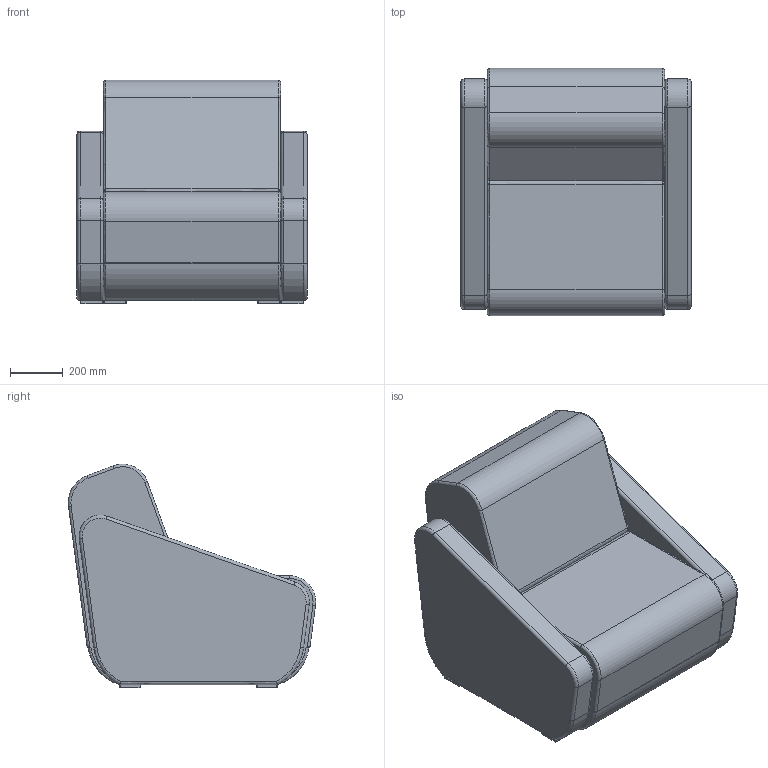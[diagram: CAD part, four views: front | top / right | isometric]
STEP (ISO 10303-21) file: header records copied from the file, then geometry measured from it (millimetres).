
FILE_DESCRIPTION(/* description */ (''),/* implementation_level */ '2;1');
FILE_NAME(/* name */ 'OPENPO~3',/* time_stamp */ '2015-09-28T16:58:55+02:00',/* author */ (''),/* organization */ (''),/* preprocessor_version */ 'ST-DEVELOPER v15',/* originating_system */ '',/* authorisation */ '');
FILE_SCHEMA (('AUTOMOTIVE_DESIGN'));
Length unit declared in the file: millimetre
Products named in the file (1): Document
Bounding box: 870 x 934.88 x 845.56 mm (x, y, z)
Volume: 464269.2 mm3; surface area: 5227603.9 mm2
Topology: 4 solids, 14 shells, 153 faces, 442 edges, 299 vertices
Faces by surface type: bspline 127, plane 26
Entity records: 6236 total; most frequent: CARTESIAN_POINT 3962, ORIENTED_EDGE 722, EDGE_CURVE 429, VERTEX_POINT 292, ADVANCED_FACE 153, FACE_OUTER_BOUND 153, EDGE_LOOP 153, B_SPLINE_CURVE_WITH_KNOTS 71
